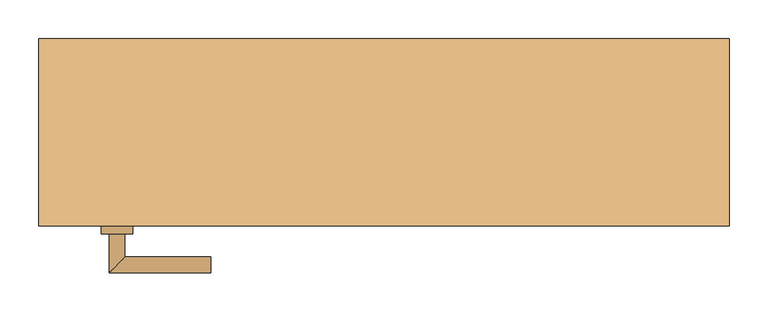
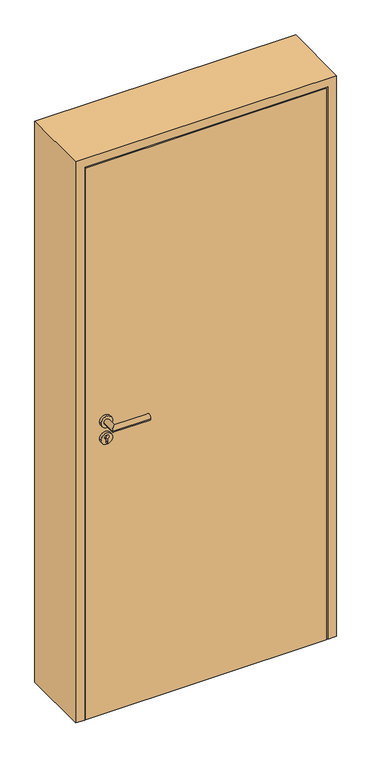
"""IFC4 building model written with IfcOpenShell, lengths in millimetres: door geometry, TU DF 1 - Rahmenstock flächenbündig variabel : ML - H - 885 x 2010."""

from ifc_helpers import new_model, si_unit, point, frame, frame_2d, origin, origin_with_axes, place, context, project, spatial, polyline, circle_curve, ellipse_curve, trimmed, segment, composite_curve, outline, extrude, faceted_brep, source, transform, mapped, element, save
from ifc_brep_helpers import plane_surface, cylinder_surface, advanced_brep


def door_ae18e9e7(model_context):
    return source(origin(), model_context, "Body", "SolidModel", [
        extrude(outline(polyline([(408.5, -120.0), (-408.5, -120.0), (-408.5, -75.0), (408.5, -75.0), (408.5, -120.0)])), origin_with_axes(), (0.0, 0.0, 1.0), 1976.0),
        advanced_brep(
        [(-332.5, -130.0, 1050.0), (-352.5, -130.0, 1050.0), (-352.5, -180.0, 1050.0), (-332.5, -160.0, 1050.0), (-222.5, -160.0, 1050.0), (-222.5, -180.0, 1050.0)],
        [
            (0, 1, circle_curve(frame((-342.5, -130.0, 1050.0), z_axis=(0.0, 1.0, 0.0), x_axis=(-1.0, 0.0, 0.0)), 10.0)),
            (1, 0, circle_curve(frame((-342.5, -130.0, 1050.0), z_axis=(0.0, 1.0, 0.0), x_axis=(-1.0, 0.0, 0.0)), 10.0)),
            (1, 2),
            (2, 3, ellipse_curve(frame((-342.5, -170.0, 1050.0), z_axis=(-0.7071067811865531, 0.7071067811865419, 0.0), x_axis=(0.707106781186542, 0.707106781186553, 0.0)), 14.1421356, 10.0)),
            (3, 0),
            (3, 2, ellipse_curve(frame((-342.5, -170.0, 1050.0), z_axis=(-0.7071067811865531, 0.7071067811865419, 0.0), x_axis=(0.707106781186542, 0.707106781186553, 0.0)), 14.1421356, 10.0)),
            (4, 5, circle_curve(frame((-222.5, -170.0, 1050.0), z_axis=(1.0, 0.0, 0.0), x_axis=(0.0, -1.0, 0.0)), 10.0)),
            (5, 4, circle_curve(frame((-222.5, -170.0, 1050.0), z_axis=(1.0, 0.0, 0.0), x_axis=(0.0, -1.0, 0.0)), 10.0)),
            (2, 5),
            (4, 3),
        ],
        [
            plane_surface(frame((-342.5, -130.0, 1050.0), z_axis=(0.0, 1.0, 0.0), x_axis=(0.0, 0.0, 1.0))),
            cylinder_surface(frame((-342.5, -130.0, 1050.0), z_axis=(0.0, 1.0, 0.0), x_axis=(-1.0, 0.0, 0.0)), 10.0),
            plane_surface(frame((-222.5, -170.0, 1050.0), z_axis=(1.0, 0.0, 0.0), x_axis=(0.0, 0.0, 1.0))),
            cylinder_surface(frame((-342.5, -170.0, 1050.0), z_axis=(-1.0, 0.0, 0.0), x_axis=(0.0, -1.0, 0.0)), 10.0),
        ],
        [
            (0, [[1, 2]]),
            (1, [[3, 4, 5, -2]]),
            (1, [[-5, 6, -3, -1]]),
            (2, [[7, 8]]),
            (3, [[9, -7, 10, -4]]),
            (3, [[-10, -8, -9, -6]]),
        ],
    ),
        extrude(outline(composite_curve([segment(trimmed(circle_curve(frame_2d((990.0, -342.5)), 20.0), [point((990.0, -362.5))], [point((990.0, -322.5))], False, "CARTESIAN"), True, "CONTINUOUS"), segment(trimmed(circle_curve(frame_2d((990.0, -342.5)), 20.0), [point((990.0, -322.5))], [point((990.0, -362.5))], False, "CARTESIAN"), True, "CONTINUOUS")], self_intersect=False), holes=[composite_curve([segment(polyline([(976.4601385, -344.897268), (988.4749012, -344.897268)]), True, "CONTINUOUS"), segment(trimmed(circle_curve(frame_2d((995.0361633, -342.5)), 6.9854888), [point((988.4749012, -344.897268))], [point((988.4749012, -340.102732))], True, "CARTESIAN"), True, "CONTINUOUS"), segment(polyline([(988.4749012, -340.102732), (976.4601385, -340.102732)]), True, "CONTINUOUS"), segment(trimmed(circle_curve(frame_2d((976.4601385, -342.5)), 2.397268), [point((976.4601385, -340.102732))], [point((976.4601385, -344.897268))], True, "CARTESIAN"), True, "CONTINUOUS")], self_intersect=False)]), frame((0.0, -130.0, 0.0), z_axis=(0.0, 1.0, 0.0), x_axis=(0.0, 0.0, 1.0)), (0.0, 0.0, 1.0), 10.0),
        advanced_brep(
        [(-332.5, -130.0, 1050.0), (-352.5, -130.0, 1050.0), (-352.5, -180.0, 1050.0), (-332.5, -160.0, 1050.0), (-222.5, -160.0, 1050.0), (-222.5, -180.0, 1050.0)],
        [
            (0, 1, circle_curve(frame((-342.5, -130.0, 1050.0), z_axis=(0.0, 1.0, 0.0), x_axis=(-1.0, 0.0, 0.0)), 10.0)),
            (1, 0, circle_curve(frame((-342.5, -130.0, 1050.0), z_axis=(0.0, 1.0, 0.0), x_axis=(-1.0, 0.0, 0.0)), 10.0)),
            (1, 2),
            (2, 3, ellipse_curve(frame((-342.5, -170.0, 1050.0), z_axis=(-0.7071067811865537, 0.7071067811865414, 0.0), x_axis=(0.7071067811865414, 0.7071067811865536, 0.0)), 14.1421356, 10.0)),
            (3, 0),
            (3, 2, ellipse_curve(frame((-342.5, -170.0, 1050.0), z_axis=(-0.7071067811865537, 0.7071067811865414, 0.0), x_axis=(0.7071067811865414, 0.7071067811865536, 0.0)), 14.1421356, 10.0)),
            (4, 5, circle_curve(frame((-222.5, -170.0, 1050.0), z_axis=(1.0, 0.0, 0.0), x_axis=(0.0, -1.0, 0.0)), 10.0)),
            (5, 4, circle_curve(frame((-222.5, -170.0, 1050.0), z_axis=(1.0, 0.0, 0.0), x_axis=(0.0, -1.0, 0.0)), 10.0)),
            (2, 5),
            (4, 3),
        ],
        [
            plane_surface(frame((-342.5, -130.0, 1050.0), z_axis=(0.0, 1.0, 0.0), x_axis=(0.0, 0.0, 1.0))),
            cylinder_surface(frame((-342.5, -130.0, 1050.0), z_axis=(0.0, 1.0, 0.0), x_axis=(-1.0, 0.0, 0.0)), 10.0),
            plane_surface(frame((-222.5, -170.0, 1050.0), z_axis=(1.0, 0.0, 0.0), x_axis=(0.0, 0.0, 1.0))),
            cylinder_surface(frame((-342.5, -170.0, 1050.0), z_axis=(-1.0, 0.0, 0.0), x_axis=(0.0, -1.0, 0.0)), 10.0),
        ],
        [
            (0, [[1, 2]]),
            (1, [[3, 4, 5, -2]]),
            (1, [[-5, 6, -3, -1]]),
            (2, [[7, 8]]),
            (3, [[9, -7, 10, -4]]),
            (3, [[-10, -8, -9, -6]]),
        ],
    ),
        extrude(outline(composite_curve([segment(trimmed(circle_curve(frame_2d((1050.0, -342.5)), 20.0), [point((1050.0, -362.5))], [point((1050.0, -322.5))], False, "CARTESIAN"), True, "CONTINUOUS"), segment(trimmed(circle_curve(frame_2d((1050.0, -342.5)), 20.0), [point((1050.0, -322.5))], [point((1050.0, -362.5))], False, "CARTESIAN"), True, "CONTINUOUS")], self_intersect=False)), frame((0.0, -130.0, 0.0), z_axis=(0.0, 1.0, 0.0), x_axis=(0.0, 0.0, 1.0)), (0.0, 0.0, 1.0), 10.0),
        advanced_brep(
        [(-332.5, -65.0, 1050.0), (-352.5, -65.0, 1050.0), (-332.5, -35.0, 1050.0), (-352.5, -15.0, 1050.0), (-222.5, -35.0, 1050.0), (-222.5, -15.0, 1050.0)],
        [
            (0, 1, circle_curve(frame((-342.5, -65.0, 1050.0), z_axis=(0.0, -1.0, 0.0), x_axis=(-1.0, 0.0, 0.0)), 10.0)),
            (1, 0, circle_curve(frame((-342.5, -65.0, 1050.0), z_axis=(0.0, -1.0, 0.0), x_axis=(-1.0, 0.0, 0.0)), 10.0)),
            (0, 2),
            (2, 3, ellipse_curve(frame((-342.5, -25.0, 1050.0), z_axis=(-0.7071067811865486, -0.7071067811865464, 0.0), x_axis=(0.7071067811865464, -0.7071067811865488, 0.0)), 14.1421356, 10.0)),
            (3, 1),
            (3, 2, ellipse_curve(frame((-342.5, -25.0, 1050.0), z_axis=(-0.7071067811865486, -0.7071067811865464, 0.0), x_axis=(0.7071067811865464, -0.7071067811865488, 0.0)), 14.1421356, 10.0)),
            (4, 5, circle_curve(frame((-222.5, -25.0, 1050.0), z_axis=(1.0, 0.0, 0.0), x_axis=(0.0, 1.0, 0.0)), 10.0)),
            (5, 4, circle_curve(frame((-222.5, -25.0, 1050.0), z_axis=(1.0, 0.0, 0.0), x_axis=(0.0, 1.0, 0.0)), 10.0)),
            (2, 4),
            (5, 3),
        ],
        [
            plane_surface(frame((-342.5, -65.0, 1050.0), z_axis=(0.0, -1.0, 0.0), x_axis=(0.0, 0.0, 1.0))),
            cylinder_surface(frame((-342.5, -65.0, 1050.0), z_axis=(0.0, -1.0, 0.0), x_axis=(-1.0, 0.0, 0.0)), 10.0),
            plane_surface(frame((-222.5, -25.0, 1050.0), z_axis=(1.0, 0.0, 0.0), x_axis=(0.0, 0.0, 1.0))),
            cylinder_surface(frame((-342.5, -25.0, 1050.0), z_axis=(-1.0, 0.0, 0.0), x_axis=(0.0, 1.0, 0.0)), 10.0),
        ],
        [
            (0, [[1, 2]]),
            (1, [[-1, 3, 4, 5]]),
            (1, [[-2, -5, 6, -3]]),
            (2, [[7, 8]]),
            (3, [[-4, 9, -8, 10]]),
            (3, [[-6, -10, -7, -9]]),
        ],
    ),
        extrude(outline(composite_curve([segment(trimmed(circle_curve(frame_2d((990.0, -342.5)), 20.0), [point((990.0, -362.5))], [point((990.0, -322.5))], False, "CARTESIAN"), True, "CONTINUOUS"), segment(trimmed(circle_curve(frame_2d((990.0, -342.5)), 20.0), [point((990.0, -322.5))], [point((990.0, -362.5))], False, "CARTESIAN"), True, "CONTINUOUS")], self_intersect=False), holes=[composite_curve([segment(polyline([(976.4601385, -344.897268), (988.4749012, -344.897268)]), True, "CONTINUOUS"), segment(trimmed(circle_curve(frame_2d((995.0361633, -342.5)), 6.9854888), [point((988.4749012, -344.897268))], [point((988.4749012, -340.102732))], True, "CARTESIAN"), True, "CONTINUOUS"), segment(polyline([(988.4749012, -340.102732), (976.4601385, -340.102732)]), True, "CONTINUOUS"), segment(trimmed(circle_curve(frame_2d((976.4601385, -342.5)), 2.397268), [point((976.4601385, -340.102732))], [point((976.4601385, -344.897268))], True, "CARTESIAN"), True, "CONTINUOUS")], self_intersect=False)]), frame((0.0, -75.0, 0.0), z_axis=(0.0, 1.0, 0.0), x_axis=(0.0, 0.0, 1.0)), (0.0, 0.0, 1.0), 10.0),
        advanced_brep(
        [(-332.5, -65.0, 1050.0), (-352.5, -65.0, 1050.0), (-332.5, -35.0, 1050.0), (-352.5, -15.0, 1050.0), (-222.5, -35.0, 1050.0), (-222.5, -15.0, 1050.0)],
        [
            (0, 1, circle_curve(frame((-342.5, -65.0, 1050.0), z_axis=(0.0, -1.0, 0.0), x_axis=(-1.0, 0.0, 0.0)), 10.0)),
            (1, 0, circle_curve(frame((-342.5, -65.0, 1050.0), z_axis=(0.0, -1.0, 0.0), x_axis=(-1.0, 0.0, 0.0)), 10.0)),
            (0, 2),
            (2, 3, ellipse_curve(frame((-342.5, -25.0, 1050.0), z_axis=(-0.7071067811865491, -0.7071067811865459, 0.0), x_axis=(0.7071067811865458, -0.7071067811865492, 0.0)), 14.1421356, 10.0)),
            (3, 1),
            (3, 2, ellipse_curve(frame((-342.5, -25.0, 1050.0), z_axis=(-0.7071067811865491, -0.7071067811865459, 0.0), x_axis=(0.7071067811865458, -0.7071067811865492, 0.0)), 14.1421356, 10.0)),
            (4, 5, circle_curve(frame((-222.5, -25.0, 1050.0), z_axis=(1.0, 0.0, 0.0), x_axis=(0.0, 1.0, 0.0)), 10.0)),
            (5, 4, circle_curve(frame((-222.5, -25.0, 1050.0), z_axis=(1.0, 0.0, 0.0), x_axis=(0.0, 1.0, 0.0)), 10.0)),
            (2, 4),
            (5, 3),
        ],
        [
            plane_surface(frame((-342.5, -65.0, 1050.0), z_axis=(0.0, -1.0, 0.0), x_axis=(0.0, 0.0, 1.0))),
            cylinder_surface(frame((-342.5, -65.0, 1050.0), z_axis=(0.0, -1.0, 0.0), x_axis=(-1.0, 0.0, 0.0)), 10.0),
            plane_surface(frame((-222.5, -25.0, 1050.0), z_axis=(1.0, 0.0, 0.0), x_axis=(0.0, 0.0, 1.0))),
            cylinder_surface(frame((-342.5, -25.0, 1050.0), z_axis=(-1.0, 0.0, 0.0), x_axis=(0.0, 1.0, 0.0)), 10.0),
        ],
        [
            (0, [[1, 2]]),
            (1, [[-1, 3, 4, 5]]),
            (1, [[-2, -5, 6, -3]]),
            (2, [[7, 8]]),
            (3, [[-4, 9, -8, 10]]),
            (3, [[-6, -10, -7, -9]]),
        ],
    ),
        extrude(outline(composite_curve([segment(trimmed(circle_curve(frame_2d((1050.0, -342.5)), 20.0), [point((1050.0, -362.5))], [point((1050.0, -322.5))], False, "CARTESIAN"), True, "CONTINUOUS"), segment(trimmed(circle_curve(frame_2d((1050.0, -342.5)), 20.0), [point((1050.0, -322.5))], [point((1050.0, -362.5))], False, "CARTESIAN"), True, "CONTINUOUS")], self_intersect=False)), frame((0.0, -75.0, 0.0), z_axis=(0.0, 1.0, 0.0), x_axis=(0.0, 0.0, 1.0)), (0.0, 0.0, 1.0), 10.0),
        faceted_brep([(-412.5, -120.0, 0.0), (-442.5, -120.0, 0.0), (-442.5, 120.0, 0.0), (-397.5, 120.0, 0.0), (-397.5, -75.0, 0.0), (-412.5, -75.0, 0.0), (-412.5, -75.0, 1980.0), (-412.5, -120.0, 1980.0), (-397.5, -75.0, 1965.0), (397.5, -75.0, 1965.0), (397.5, -75.0, 0.0), (412.5, -75.0, 0.0), (412.5, -75.0, 1980.0), (-397.5, 120.0, 1965.0), (-442.5, 120.0, 2010.0), (442.5, 120.0, 2010.0), (442.5, 120.0, 0.0), (397.5, 120.0, 0.0), (397.5, 120.0, 1965.0), (-442.5, -120.0, 2010.0), (412.5, -120.0, 1980.0), (412.5, -120.0, 0.0), (442.5, -120.0, 0.0), (442.5, -120.0, 2010.0)], [[[0, 1, 2, 3, 4, 5]], [[5, 6, 7, 0]], [[4, 8, 9, 10, 11, 12, 6, 5]], [[3, 13, 8, 4]], [[2, 14, 15, 16, 17, 18, 13, 3]], [[1, 19, 14, 2]], [[0, 7, 20, 21, 22, 23, 19, 1]], [[23, 22, 16, 15]], [[21, 11, 10, 17, 16, 22]], [[12, 11, 21, 20]], [[18, 17, 10, 9]], [[19, 23, 15, 14]], [[13, 18, 9, 8]], [[6, 12, 20, 7]]]),
    ])


if __name__ == "__main__":
    model = new_model("IFC4")
    model_context = context("Model", 3, world=origin())
    ifc_project = project(units=[si_unit("LENGTHUNIT", "METRE", prefix="MILLI")], contexts=[model_context])
    site = spatial("IfcSite", under=ifc_project)
    building = spatial("IfcBuilding", under=site)
    placement = place(None, origin())
    door_shape = door_ae18e9e7(model_context)
    element("IfcDoor", 1, ObjectType="TU DF 1 - Rahmenstock flächenbündig variabel : ML - H - 885 x 2010", at=placement, inside=building, context=model_context, shape_type="MappedRepresentation", body=[
        mapped(door_shape, transform((0.0, 0.0, 0.0), x_axis=(1.0, 0.0, 0.0), y_axis=(0.0, 1.0, 0.0), z_axis=(0.0, 0.0, 1.0))),
    ])
    save(model, "model.ifc")
